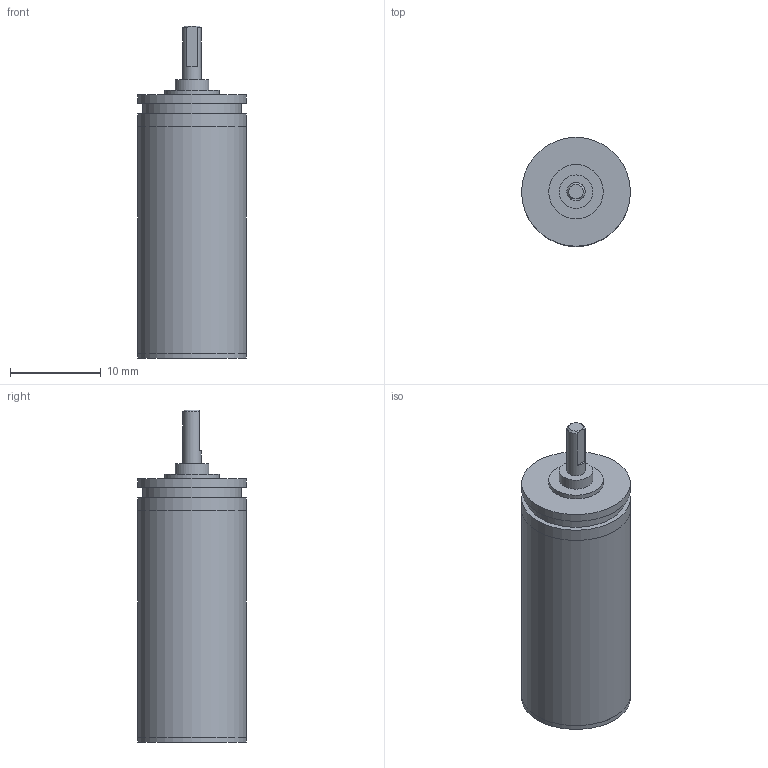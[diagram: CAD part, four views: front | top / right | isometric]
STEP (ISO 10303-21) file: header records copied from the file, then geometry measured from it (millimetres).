
FILE_DESCRIPTION(/* description */ (''),/* implementation_level */ '2;1');
FILE_NAME(/* name */ '12-3K_9.stp',/* time_stamp */ '2016-08-24T10:23:12+02:00',/* author */ ('DR. FRITZ FAULHABER GmbH & Co. KG'),/* organization */ ('DR. FRITZ FAULHABER GmbH & Co. KG'),/* preprocessor_version */ 'ST-DEVELOPER v16',/* originating_system */ 'SIEMENS PLM Software NX 10.0',/* authorisation */ '');
FILE_SCHEMA (('AUTOMOTIVE_DESIGN { 1 0 10303 214 3 1 1 1 }'));
Length unit declared in the file: millimetre
Products named in the file (1): H00000585_A
Bounding box: 12 x 12 x 36.6 mm (x, y, z)
Volume: 3229.2 mm3; surface area: 1481.6 mm2
Topology: 1 solids, 1 shells, 32 faces, 52 edges, 34 vertices
Faces by surface type: plane 16, cylinder 14, cone 2
Full cylindrical faces by diameter (mm): 2 x1, 2.48 x1, 2.6 x1, 3.7 x1, 5 x1, 6 x2, 10.88 x1, 11.99 x2, 12 x4
Entity records: 692 total; most frequent: DIRECTION 129, CARTESIAN_POINT 115, ORIENTED_EDGE 70, AXIS2_PLACEMENT_3D 63, EDGE_LOOP 59, FACE_BOUND 54, EDGE_CURVE 35, ADVANCED_FACE 32
